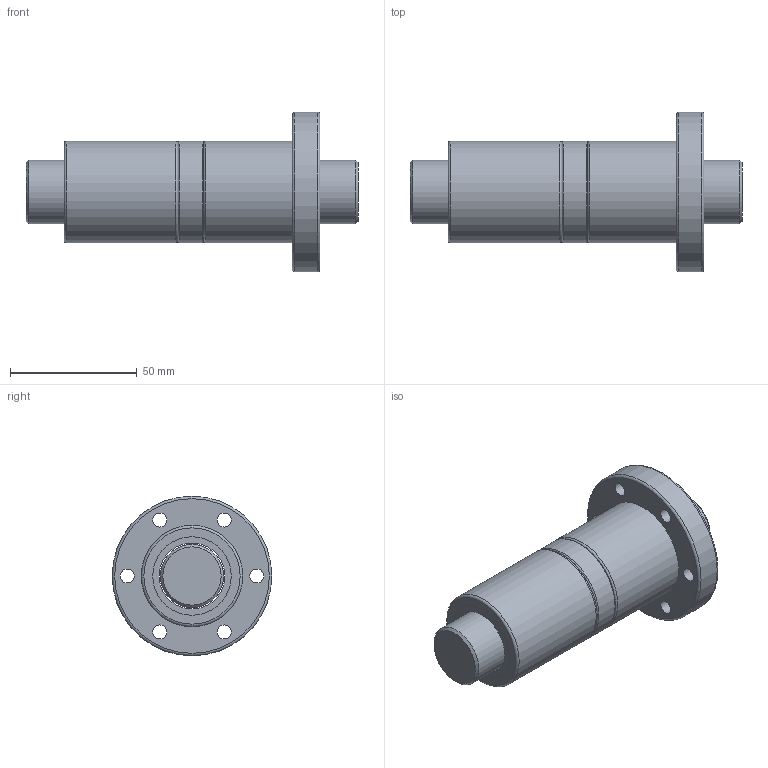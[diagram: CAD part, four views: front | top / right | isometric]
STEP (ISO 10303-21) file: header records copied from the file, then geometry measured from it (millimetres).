
FILE_DESCRIPTION(/* description */ (''),/* implementation_level */ '2;1');
FILE_NAME(/* name */ 'DFI2505',/* time_stamp */ '2007-10-26T11:50:15+08:00',/* author */ (''),/* organization */ (''),/* preprocessor_version */ 'ST-DEVELOPER v9',/* originating_system */ 'EDS PLM SOLUTIONS - UNIGRAPHICS NX 1.0',/* authorisation */ '');
FILE_SCHEMA (('CONFIG_CONTROL_DESIGN'));
Length unit declared in the file: millimetre
Products named in the file (1): FANNDA0400fn
Bounding box: 131 x 63 x 63 mm (x, y, z)
Volume: 154690.3 mm3; surface area: 45102.6 mm2
Topology: 6 solids, 6 shells, 56 faces, 101 edges, 66 vertices
Faces by surface type: cylinder 26, plane 21, torus 7, cone 2
Full cylindrical faces by diameter (mm): 5.5 x6, 9.5 x6, 25 x1, 26 x5, 31 x4, 40 x3, 63 x1
Entity records: 1294 total; most frequent: DIRECTION 236, CARTESIAN_POINT 179, EDGE_LOOP 122, ORIENTED_EDGE 122, AXIS2_PLACEMENT_3D 118, FACE_BOUND 99, VERTEX_POINT 61, EDGE_CURVE 61
